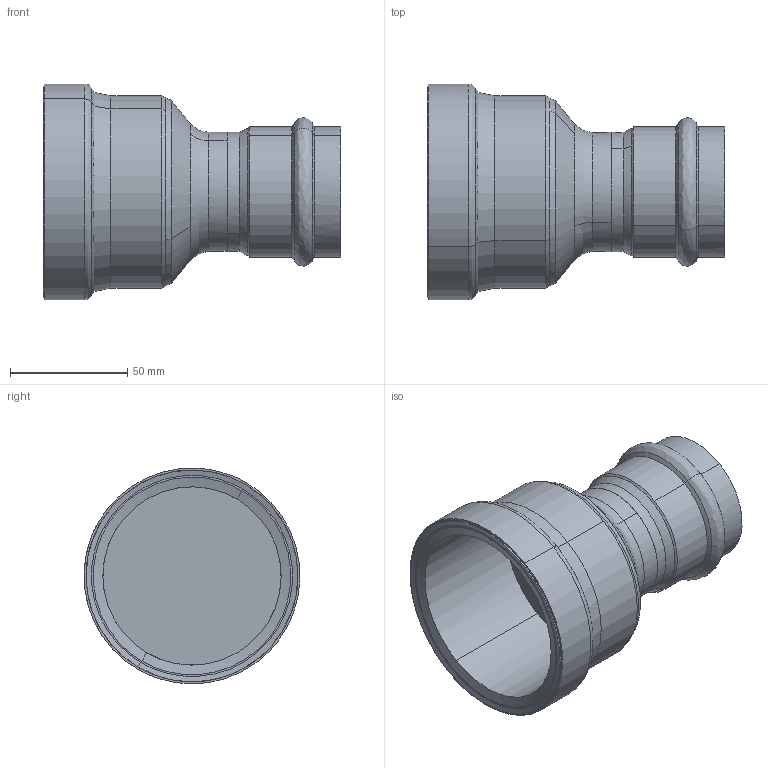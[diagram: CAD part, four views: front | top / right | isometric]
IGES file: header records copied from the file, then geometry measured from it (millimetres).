
Start section: 3D InterOp IGES (Version 25 0 1), Spatial Corp. Copyright (c) 1999-2007.
Global section: file name: pim0004400.igs; native system: Spatial Corp.; preprocessor: 3D InterOp ACIS/IGES; author: Cad-Pim; organization: TransMagic, Inc.; date: 20150430.064231; units: millimetre
Bounding box: 126.91 x 91.9 x 91.95 mm (x, y, z)
Volume: 189696.3 mm3; surface area: 57168.1 mm2
Topology: 1 solids, 1 shells, 52 faces, 135 edges, 89 vertices
Faces by surface type: cylinder 18, cone 18, bspline 16
